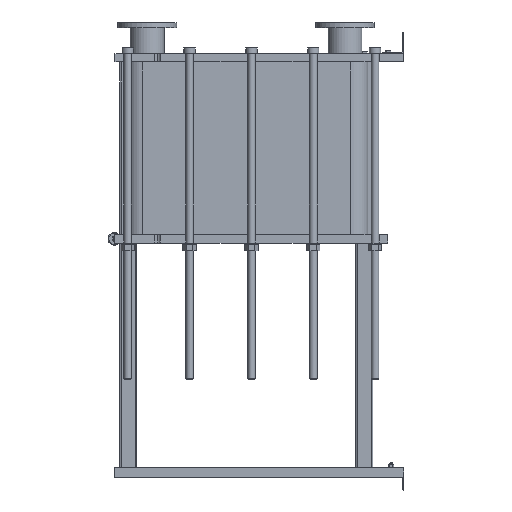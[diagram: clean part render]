
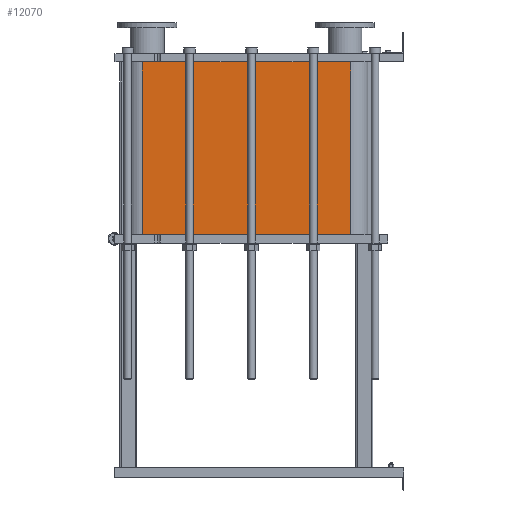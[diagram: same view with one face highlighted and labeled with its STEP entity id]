
A CAD part, left-side view. The second image highlights one B-rep face of the part: STEP entity #12070.
In plain terms, the highlighted planar face has unit normal (-1, 0, 0).
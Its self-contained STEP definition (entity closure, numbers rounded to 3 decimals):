
#1064=LINE('',#21140,#2164);
#1065=LINE('',#21144,#2165);
#1066=LINE('',#21146,#2166);
#1067=LINE('',#21147,#2167);
#2164=VECTOR('',#15790,10.);
#2165=VECTOR('',#15795,10.);
#2166=VECTOR('',#15796,10.);
#2167=VECTOR('',#15797,10.);
#3304=FACE_OUTER_BOUND('',#4091,.T.);
#4091=EDGE_LOOP('',(#9793,#9794,#9795,#9796));
#5677=VERTEX_POINT('',#21137);
#5678=VERTEX_POINT('',#21139);
#5679=VERTEX_POINT('',#21143);
#5680=VERTEX_POINT('',#21145);
#7118=EDGE_CURVE('',#5678,#5677,#1064,.T.);
#7120=EDGE_CURVE('',#5677,#5679,#1065,.T.);
#7121=EDGE_CURVE('',#5680,#5679,#1066,.T.);
#7122=EDGE_CURVE('',#5680,#5678,#1067,.T.);
#9793=ORIENTED_EDGE('',*,*,#7120,.T.);
#9794=ORIENTED_EDGE('',*,*,#7121,.F.);
#9795=ORIENTED_EDGE('',*,*,#7122,.T.);
#9796=ORIENTED_EDGE('',*,*,#7118,.T.);
#11441=PLANE('',#13191);
#12070=ADVANCED_FACE('',(#3304),#11441,.T.);
#13191=AXIS2_PLACEMENT_3D('',#21142,#15793,#15794);
#15790=DIRECTION('',(0.,0.,-1.));
#15793=DIRECTION('center_axis',(-1.,0.,0.));
#15794=DIRECTION('ref_axis',(0.,1.,0.));
#15795=DIRECTION('',(0.,-1.,0.));
#15796=DIRECTION('',(0.,0.,-1.));
#15797=DIRECTION('',(0.,1.,0.));
#21137=CARTESIAN_POINT('',(-248.152,1243.818,-821.1));
#21139=CARTESIAN_POINT('',(-248.152,1243.818,0.));
#21140=CARTESIAN_POINT('',(-248.152,1243.818,0.));
#21142=CARTESIAN_POINT('Origin',(-248.152,251.818,0.));
#21143=CARTESIAN_POINT('',(-248.152,251.818,-821.1));
#21144=CARTESIAN_POINT('',(-248.152,499.818,-821.1));
#21145=CARTESIAN_POINT('',(-248.152,251.818,0.));
#21146=CARTESIAN_POINT('',(-248.152,251.818,0.));
#21147=CARTESIAN_POINT('',(-248.152,251.818,0.));
